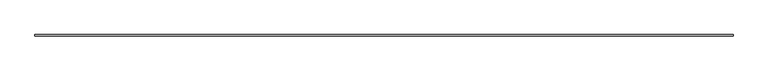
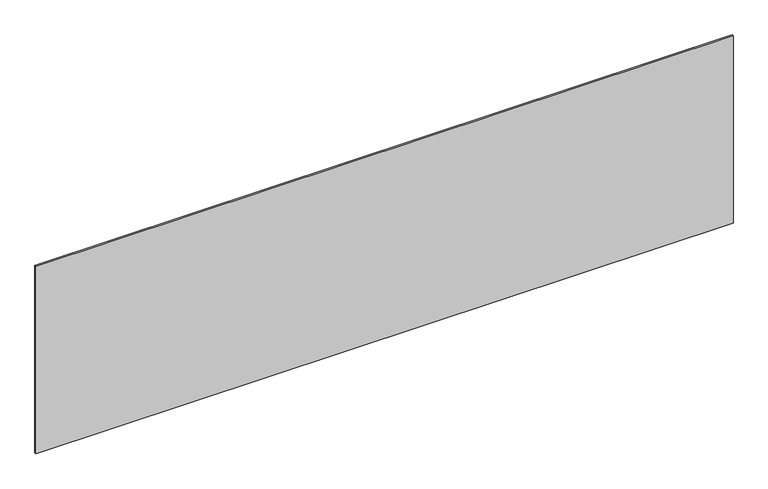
"""IFC4 building model written with IfcOpenShell, lengths in millimetres: plate geometry, システム パネル : 標準."""

from ifc_helpers import new_model, si_unit, origin, origin_with_axes, place, context, project, spatial, polyline, outline, extrude, source, transform, mapped, element, save


def plate_3d523d60(model_context):
    return source(origin(), model_context, "Body", "SweptSolid", [
        extrude(outline(polyline([(2264.1666667, -5.0), (-2264.1666667, -5.0), (-2264.1666667, 5.0), (2264.1666667, 5.0), (2264.1666667, -5.0)])), origin_with_axes(), (0.0, 0.0, 1.0), 1288.1660768),
    ])


if __name__ == "__main__":
    model = new_model("IFC4")
    model_context = context("Model", 3, world=origin())
    ifc_project = project(units=[si_unit("LENGTHUNIT", "METRE", prefix="MILLI")], contexts=[model_context])
    site = spatial("IfcSite", under=ifc_project)
    building = spatial("IfcBuilding", under=site)
    placement = place(None, origin())
    plate_shape = plate_3d523d60(model_context)
    element("IfcPlate", 1, ObjectType="システム パネル : 標準", at=placement, inside=building, context=model_context, shape_type="MappedRepresentation", body=[
        mapped(plate_shape, transform((0.0, 0.0, 0.0), x_axis=(1.0, 0.0, 0.0), y_axis=(0.0, 1.0, 0.0), z_axis=(0.0, 0.0, 1.0))),
    ])
    save(model, "model.ifc")
